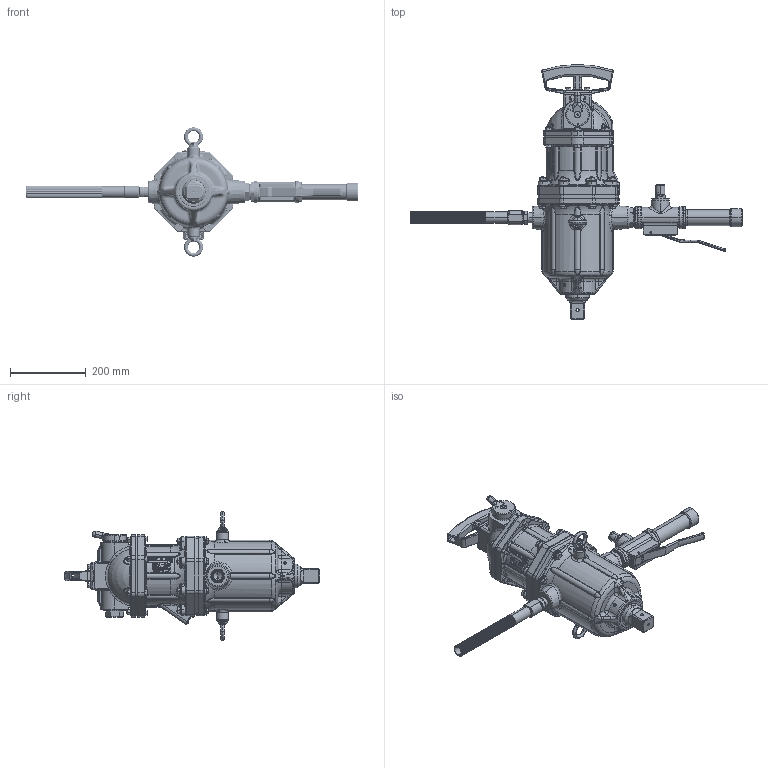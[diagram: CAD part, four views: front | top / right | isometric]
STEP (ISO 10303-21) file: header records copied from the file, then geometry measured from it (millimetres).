
FILE_DESCRIPTION (( 'STEP AP214' ), '1' );
FILE_NAME ('UW-75S(1-1／2).STEP', '2013-03-14T04:14:57', ( 'GIKAI' ), ( 'Hewlett-Packard Company' ), 'SwSTEP 2.0', 'SolidWorks 2012', '' );
FILE_SCHEMA (( 'AUTOMOTIVE_DESIGN' ));
Length unit declared in the file: millimetre
Products named in the file (44): 120-012-1-CP; 120-212-1; 945-325-0; 962-011-0; 117-725-1; 120-851-1; 120-214-1; 120-218-1; 120-210-2; 973-212-0-3.9; 120-211-1; 120-012-1; 120-025-1-CP; 960-301-0+962; 947-648-0; 963-250-0; 120-021-1; 120-027-1; 120-856-1; 120-853-1; 120-025-1; 120-014-1-CP; 120-734-1; 120-729-2; 120-739-1; 973-329-0; 975-115-0; 973-224-0; 120-245-1; 120-242-1; 120-243-1; 120-107-1; 120-100-1; 120-014-1; 120-028-1-CP; 120-795-1; 947-678-0; 636-720-1; 636-730-1; 952-512-0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
Assembly tree (80 placements, depth 3):
  UW-75S(1-1／2)
    858-010-1
    120-028-1-CP
      120-028-1
      120-328-1
      952-512-0
      636-730-1
      636-720-1
      947-678-0  x8
      120-795-1  x2
    120-014-1-CP
      120-014-1
      120-100-1
      120-107-1
      120-243-1
      120-242-1
      120-245-1
      973-224-0
      975-115-0
      973-329-0
      120-739-1  x2
      120-729-2
      120-734-1
    120-025-1-CP
      120-025-1
      120-853-1
      120-856-1  x2
      120-027-1
      120-021-1
      963-250-0  x4
      947-648-0  x6
      960-301-0+962  x8
    120-012-1-CP
      120-012-1
      120-211-1
      973-212-0-3.9
      120-210-2
      120-218-1
      120-214-1
      960-301-0+962  x6
      120-851-1
      117-725-1
      962-011-0  x4
      945-325-0  x4
      120-212-1
Bounding box: 878 x 674.5 x 342 mm (x, y, z)
Volume: 3595254.7 mm3; surface area: 1455656.3 mm2
Topology: 73 solids, 80 shells, 4643 faces, 11869 edges, 7400 vertices
Faces by surface type: cylinder 1654, plane 1589, bspline 554, torus 403, cone 380, sphere 63
Entity records: 156255 total; most frequent: CARTESIAN_POINT 65614, ORIENTED_EDGE 19502, DIRECTION 17617, EDGE_CURVE 9758, AXIS2_PLACEMENT_3D 7016, VERTEX_POINT 6127, EDGE_LOOP 4211, FACE_OUTER_BOUND 3818
